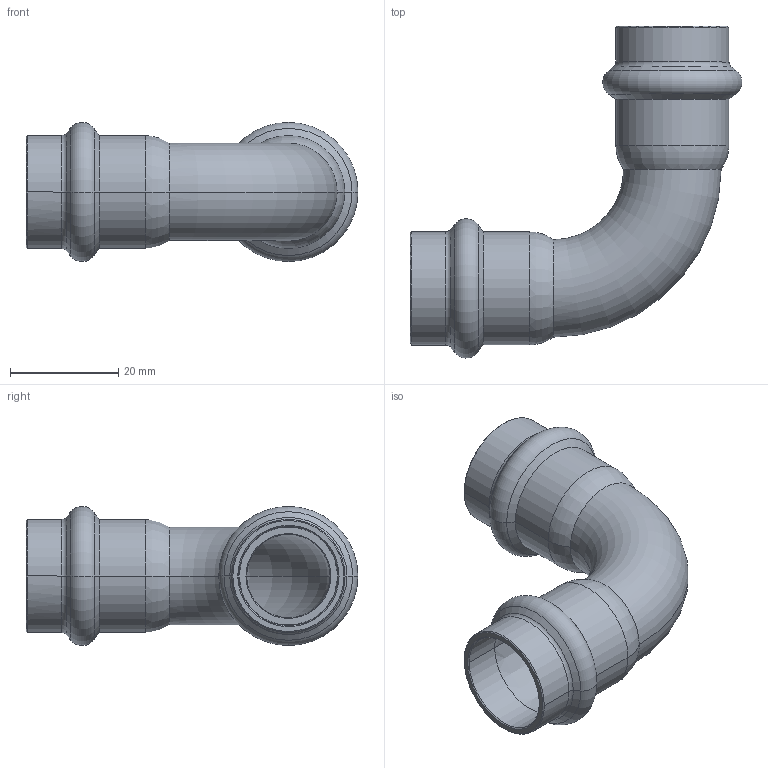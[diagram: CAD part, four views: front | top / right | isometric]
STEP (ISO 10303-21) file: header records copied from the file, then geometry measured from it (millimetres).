
FILE_DESCRIPTION(('CoCreate Modeling STEP Export'),'2;1');
FILE_NAME('8002VW18.stp','2013-01-29T13:44:15',(''),(''),'CoCreate Modeling STEP processor for AP214 (Solid Model)','CoCreate Modeling 17.00A 17-Jun-2010 (C) Parametric Technology GmbH','');
FILE_SCHEMA(('AUTOMOTIVE_DESIGN { 1 0 10303 214 1 1 1 1 }'));
Length unit declared in the file: millimetre
Products named in the file (1): 8002VW18
Bounding box: 61.28 x 61.28 x 25.7 mm (x, y, z)
Volume: 8226 mm3; surface area: 10943.3 mm2
Topology: 1 solids, 1 shells, 74 faces, 159 edges, 91 vertices
Faces by surface type: torus 28, cylinder 20, cone 20, plane 6
Entity records: 2048 total; most frequent: CARTESIAN_POINT 655, ORIENTED_EDGE 318, DIRECTION 260, EDGE_CURVE 159, AXIS2_PLACEMENT_3D 110, VERTEX_POINT 91, EDGE_LOOP 80, FACE_OUTER_BOUND 74
